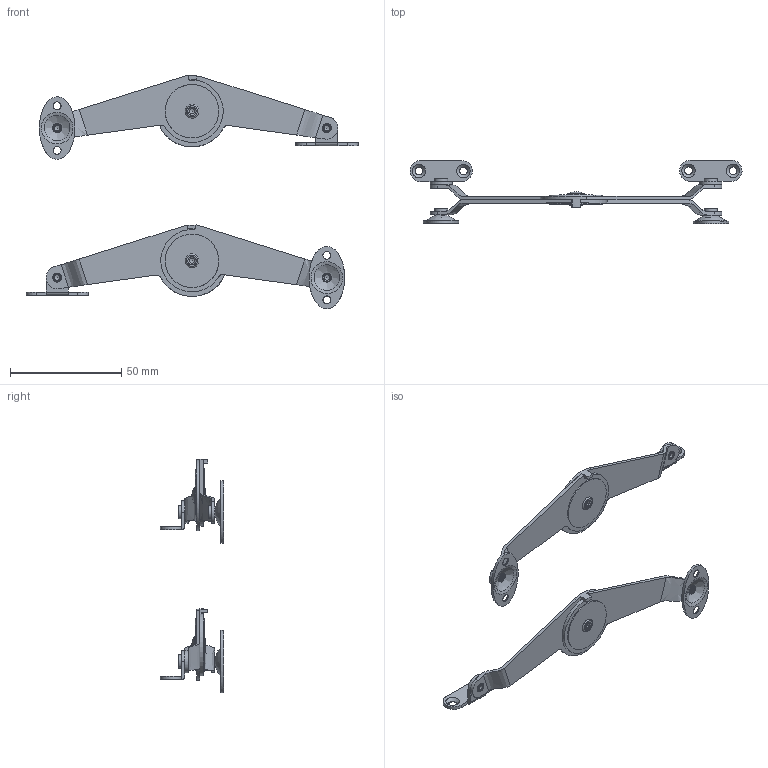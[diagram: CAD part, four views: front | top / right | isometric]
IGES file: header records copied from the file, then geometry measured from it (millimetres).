
Global section: file name: DR_SY-1; native system: Autodesk Inventor 2015; preprocessor: unknown; author: user; date: 20180305.184251; units: millimetre
Bounding box: 149.05 x 28.4 x 104.85 mm (x, y, z)
Volume: 11706.6 mm3; surface area: 16873.8 mm2
Topology: 8 solids, 8 shells, 184 faces, 494 edges, 360 vertices
Faces by surface type: bspline 184
